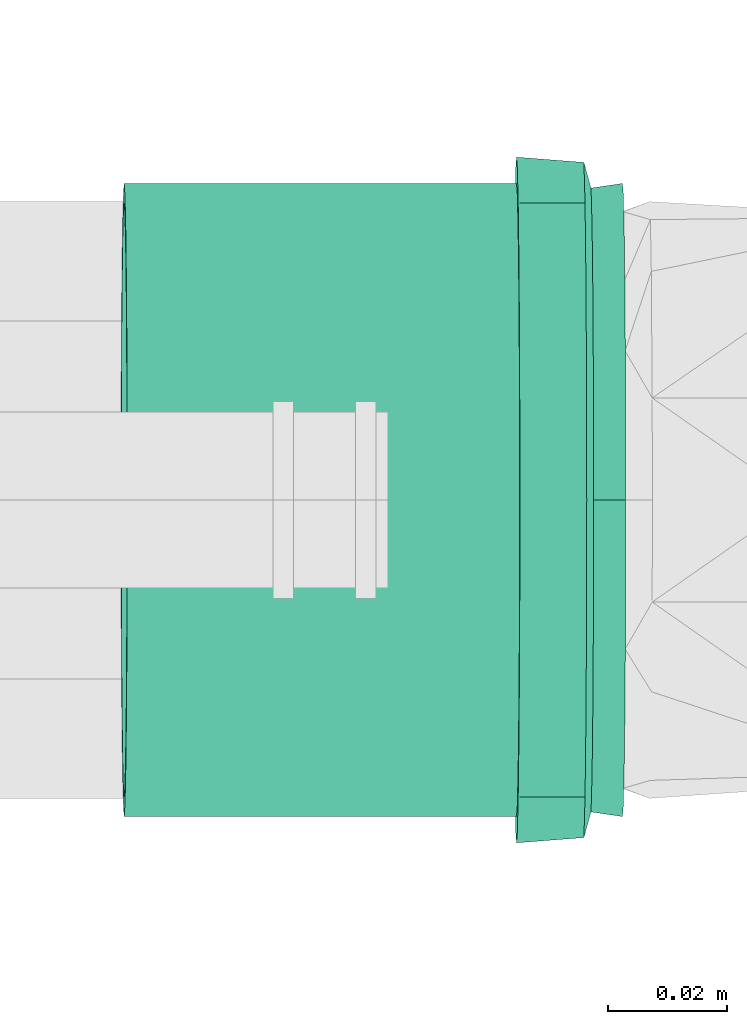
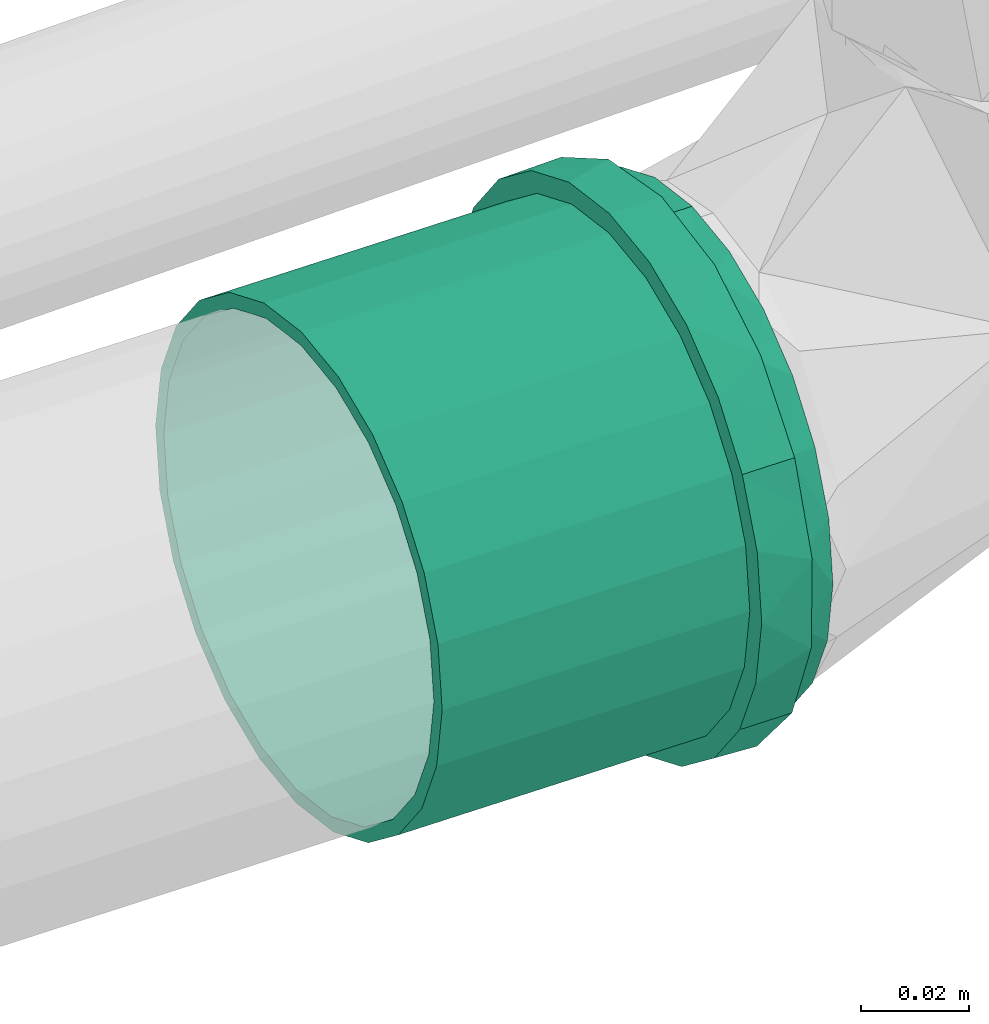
# One storey, part 84 of 589: 1 flow fitting.
"""IFC2X3 building model written with IfcOpenShell, lengths in millimetres."""

from ifc_helpers import new_model, entity, si_unit, converted_unit, derived_unit, direction, frame, origin, place, context, subcontext, project, spatial, faceted_brep, source, transform, mapped, material, type_object, type_shapes, element, save


model = new_model("IFC2X3")

# Units and contexts
model_context = context("Model", 3, precision=0.01, world=origin(), true_north=direction((6.123031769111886e-17, 1.0)))
body_context = subcontext(model_context, "Body", "Model", "MODEL_VIEW")
ifc_project = project(units=[si_unit("LENGTHUNIT", "METRE", prefix="MILLI"), si_unit("AREAUNIT", "SQUARE_METRE"), si_unit("VOLUMEUNIT", "CUBIC_METRE"), converted_unit("PLANEANGLEUNIT", "DEGREE", entity("IfcRatioMeasure", 0.017453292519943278), si_unit("PLANEANGLEUNIT", "RADIAN"), dimensions=[0, 0, 0, 0, 0, 0, 0]), si_unit("MASSUNIT", "GRAM", prefix="KILO"), derived_unit("MASSDENSITYUNIT", [(si_unit("MASSUNIT", "GRAM", prefix="KILO"), 1), (si_unit("LENGTHUNIT", "METRE"), -3)]), derived_unit("IONCONCENTRATIONUNIT", [(si_unit("MASSUNIT", "GRAM", prefix="KILO"), 1), (si_unit("LENGTHUNIT", "METRE"), -3)]), derived_unit("MOMENTOFINERTIAUNIT", [(si_unit("LENGTHUNIT", "METRE"), 4)]), si_unit("TIMEUNIT", "SECOND"), si_unit("FREQUENCYUNIT", "HERTZ"), si_unit("THERMODYNAMICTEMPERATUREUNIT", "DEGREE_CELSIUS"), derived_unit("THERMALTRANSMITTANCEUNIT", [(si_unit("MASSUNIT", "GRAM", prefix="KILO"), 1), (si_unit("THERMODYNAMICTEMPERATUREUNIT", "KELVIN"), -1), (si_unit("TIMEUNIT", "SECOND"), -3)]), derived_unit("THERMALCONDUCTANCEUNIT", [(si_unit("MASSUNIT", "GRAM", prefix="KILO"), 1), (si_unit("THERMODYNAMICTEMPERATUREUNIT", "KELVIN"), -1), (si_unit("TIMEUNIT", "SECOND"), -3), (si_unit("LENGTHUNIT", "METRE"), 1)]), derived_unit("VOLUMETRICFLOWRATEUNIT", [(si_unit("LENGTHUNIT", "METRE"), 3), (si_unit("TIMEUNIT", "SECOND"), -1)]), derived_unit("MASSFLOWRATEUNIT", [(si_unit("MASSUNIT", "GRAM", prefix="KILO"), 1), (si_unit("TIMEUNIT", "SECOND"), -1)]), derived_unit("ROTATIONALFREQUENCYUNIT", [(si_unit("TIMEUNIT", "SECOND"), -1)]), si_unit("ELECTRICCURRENTUNIT", "AMPERE"), si_unit("ELECTRICVOLTAGEUNIT", "VOLT"), si_unit("POWERUNIT", "WATT"), si_unit("FORCEUNIT", "NEWTON", prefix="KILO"), si_unit("ILLUMINANCEUNIT", "LUX"), si_unit("LUMINOUSFLUXUNIT", "LUMEN"), si_unit("LUMINOUSINTENSITYUNIT", "CANDELA"), derived_unit("USERDEFINED", [(si_unit("MASSUNIT", "GRAM", prefix="KILO"), -1), (si_unit("LENGTHUNIT", "METRE"), -2), (si_unit("TIMEUNIT", "SECOND"), 3), (si_unit("LUMINOUSFLUXUNIT", "LUMEN"), 1)]), derived_unit("USERDEFINED", [(si_unit("MASSUNIT", "GRAM", prefix="KILO"), 1), (si_unit("TIMEUNIT", "SECOND"), -3), (si_unit("LENGTHUNIT", "METRE"), 3), (si_unit("ELECTRICCURRENTUNIT", "AMPERE"), -2)]), derived_unit("SOUNDPOWERUNIT", [(si_unit("MASSUNIT", "GRAM", prefix="KILO"), 1), (si_unit("TIMEUNIT", "SECOND"), -3), (si_unit("LENGTHUNIT", "METRE"), 2)]), derived_unit("SOUNDPRESSUREUNIT", [(si_unit("MASSUNIT", "GRAM", prefix="KILO"), 1), (si_unit("LENGTHUNIT", "METRE"), -1), (si_unit("TIMEUNIT", "SECOND"), -2)]), derived_unit("LINEARVELOCITYUNIT", [(si_unit("LENGTHUNIT", "METRE"), 1), (si_unit("TIMEUNIT", "SECOND"), -1)]), si_unit("PRESSUREUNIT", "PASCAL"), derived_unit("USERDEFINED", [(si_unit("MASSUNIT", "GRAM", prefix="KILO"), 1), (si_unit("LENGTHUNIT", "METRE"), -2), (si_unit("TIMEUNIT", "SECOND"), -2)]), derived_unit("LINEARFORCEUNIT", [(si_unit("MASSUNIT", "GRAM", prefix="KILO"), 1), (si_unit("TIMEUNIT", "SECOND"), -2)]), derived_unit("PLANARFORCEUNIT", [(si_unit("MASSUNIT", "GRAM", prefix="KILO"), 1), (si_unit("LENGTHUNIT", "METRE"), -1), (si_unit("TIMEUNIT", "SECOND"), -2)]), derived_unit("SPECIFICHEATCAPACITYUNIT", [(si_unit("THERMODYNAMICTEMPERATUREUNIT", "KELVIN"), -1), (si_unit("LENGTHUNIT", "METRE"), 2), (si_unit("TIMEUNIT", "SECOND"), -2)]), derived_unit("HEATINGVALUEUNIT", [(si_unit("LENGTHUNIT", "METRE"), 2), (si_unit("TIMEUNIT", "SECOND"), -2)]), derived_unit("VAPORPERMEABILITYUNIT", [(si_unit("LENGTHUNIT", "METRE"), -1), (si_unit("TIMEUNIT", "SECOND"), 1)]), derived_unit("DYNAMICVISCOSITYUNIT", [(si_unit("MASSUNIT", "GRAM", prefix="KILO"), 1), (si_unit("TIMEUNIT", "SECOND"), -1), (si_unit("LENGTHUNIT", "METRE"), -1)]), derived_unit("THERMALEXPANSIONCOEFFICIENTUNIT", [(si_unit("THERMODYNAMICTEMPERATUREUNIT", "KELVIN"), -1)]), derived_unit("MODULUSOFELASTICITYUNIT", [(si_unit("MASSUNIT", "GRAM", prefix="KILO"), 1), (si_unit("LENGTHUNIT", "METRE"), -1), (si_unit("TIMEUNIT", "SECOND"), -2)]), derived_unit("ISOTHERMALMOISTURECAPACITYUNIT", [(si_unit("LENGTHUNIT", "METRE"), 3), (si_unit("MASSUNIT", "GRAM", prefix="KILO"), -1)]), derived_unit("MOISTUREDIFFUSIVITYUNIT", [(si_unit("TIMEUNIT", "SECOND"), -1), (si_unit("LENGTHUNIT", "METRE"), 2)])], contexts=[model_context])

# Site, building, storey
site_placement = place(None, origin())
site = spatial("IfcSite", under=ifc_project, at=site_placement, Name="Default", CompositionType="ELEMENT")
building_placement = place(site_placement, origin())
building = spatial("IfcBuilding", under=site, at=building_placement, CompositionType="ELEMENT")
storey_placement = place(building_placement, frame((0.0, 0.0, 100.0)))
storey = spatial("IfcBuildingStorey", under=building, at=storey_placement, Name="TÉRREO", CompositionType="ELEMENT", Elevation=100.0)

# Flow fitting
ifc_material = material(Name="PVC Série Normal")
pipe_fitting_type = type_object("IfcPipeFittingType", Name="PVC Esgoto_Luva Simples para Conexão_Rodrigo MEP:Standard", PredefinedType="NOTDEFINED", material=ifc_material)
shared_shape = source(origin(), body_context, "Body", "Brep", [
    faceted_brep([(17.770000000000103, 28.72500000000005, -49.753159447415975), (17.770000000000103, 40.62328457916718, -40.62328457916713), (17.770000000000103, 26.524999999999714, -45.94264767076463), (17.770000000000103, 13.730350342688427, -51.242365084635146), (17.770000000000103, 14.86915414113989, -55.49243872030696), (17.770000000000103, 37.5120147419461, -37.51201474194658), (17.770000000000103, 49.75315944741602, -28.724999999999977), (17.770000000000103, 45.94264767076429, -26.52500000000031), (17.770000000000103, 51.24236508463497, -13.730350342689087), (17.770000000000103, 55.49243872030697, -14.869154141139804), (17.770000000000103, 53.05, 0.0), (17.770000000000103, 57.45, 0.0), (17.770000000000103, 51.242365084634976, 13.730350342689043), (17.770000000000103, 55.49243872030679, 14.869154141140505), (17.770000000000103, 45.942647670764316, 26.52500000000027), (17.770000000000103, 49.753159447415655, 28.725000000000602), (17.770000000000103, 37.51201474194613, 37.51201474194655), (17.770000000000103, 40.62328457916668, 40.62328457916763), (17.770000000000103, 26.524999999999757, 45.9426476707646), (17.770000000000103, 28.72499999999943, 49.75315944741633), (17.770000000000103, 13.730350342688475, 51.24236508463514), (17.770000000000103, 14.8691541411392, 55.49243872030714), (17.770000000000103, 0.0, 53.05), (17.770000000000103, 0.0, 57.45), (17.770000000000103, -13.730350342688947, 51.24236508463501), (17.770000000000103, -14.869154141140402, 55.49243872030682), (17.770000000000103, -26.52500000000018, 45.94264767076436), (17.770000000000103, -28.725000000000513, 49.753159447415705), (17.770000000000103, -37.51201474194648, 37.5120147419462), (17.770000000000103, -40.62328457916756, 40.62328457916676), (17.770000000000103, -45.94264767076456, 26.524999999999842), (17.770000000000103, -49.7531594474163, 28.724999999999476), (17.770000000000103, -55.49243872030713, 14.869154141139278), (17.770000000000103, -51.24236508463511, 13.730350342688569), (17.770000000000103, -57.45, 0.0), (17.770000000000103, -53.05, 0.0), (17.770000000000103, -55.49243872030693, -14.86915414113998), (17.770000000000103, -51.24236508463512, -13.73035034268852), (17.770000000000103, -49.75315944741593, -28.72500000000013), (17.770000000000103, -45.942647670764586, -26.5249999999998), (17.770000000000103, -40.62328457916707, -40.62328457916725), (17.770000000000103, -37.512014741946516, -37.51201474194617), (17.770000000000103, -28.724999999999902, -49.75315944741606), (17.770000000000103, -26.525000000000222, -45.94264767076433), (17.770000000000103, -14.869154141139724, -55.492438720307), (17.770000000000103, -13.730350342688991, -51.242365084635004), (17.770000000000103, 0.0, -57.45), (17.770000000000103, 0.0, -53.05), (6.570000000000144, -19.34638876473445, 53.16657713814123), (6.57000000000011, -44.00761900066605, 36.93009572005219), (6.5700000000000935, -48.99626263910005, 28.290173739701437), (6.5700000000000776, -53.98490627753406, 19.65025175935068), (6.570000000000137, -28.721697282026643, 49.75506612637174), (6.570000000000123, -36.36465814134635, 43.34258092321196), (6.57000000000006, -55.71745313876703, 9.825125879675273), (6.570000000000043, -57.45, 0.0), (6.570000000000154, -9.971080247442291, 56.57808814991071), (6.570000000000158, 9.98234714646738, 56.576101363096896), (6.570000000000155, 0.005633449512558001, 56.577094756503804), (6.570000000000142, 36.37328876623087, 43.33533831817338), (6.570000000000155, 19.356976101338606, 53.16272339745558), (6.570000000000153, 28.73160505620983, 49.749345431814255), (6.5700000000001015, 53.988818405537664, 19.639500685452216), (6.570000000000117, 49.00189544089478, 28.280415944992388), (6.570000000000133, 44.01497247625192, 36.921331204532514), (6.570000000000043, 57.45, 0.0), (6.569999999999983, 44.01497247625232, -36.92133120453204), (6.569999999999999, 49.0018954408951, -28.280415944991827), (6.570000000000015, 53.98881840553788, -19.63950068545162), (6.569999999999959, 28.731605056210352, -49.74934543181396), (6.569999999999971, 36.37328876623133, -43.335338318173), (6.569999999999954, 19.35697610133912, -53.16272339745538), (6.569999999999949, 9.982347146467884, -56.57610136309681), (6.569999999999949, -9.97108024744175, -56.578088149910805), (6.569999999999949, 0.005633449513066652, -56.577094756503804), (6.569999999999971, -36.364658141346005, -43.34258092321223), (6.56999999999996, -28.72169728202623, -49.755066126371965), (6.569999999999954, -19.346388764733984, -53.16657713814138), (6.57000000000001, -53.984906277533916, -19.650251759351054), (6.569999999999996, -48.99626263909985, -28.290173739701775), (6.569999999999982, -44.007619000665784, -36.93009572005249), (6.570000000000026, -55.717453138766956, -9.825125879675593), (83.52000000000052, 26.525000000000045, -45.942647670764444), (83.52000000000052, 37.512014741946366, -37.51201474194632), (83.52000000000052, 25.0, -43.301270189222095), (83.52000000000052, 12.940952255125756, -48.2962913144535), (83.52000000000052, 13.73035034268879, -51.242365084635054), (83.52000000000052, 35.35533905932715, -35.355339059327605), (83.52000000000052, 45.94264767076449, -26.524999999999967), (83.52000000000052, 43.30127018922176, -25.0), (83.52000000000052, 48.29629131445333, -12.940952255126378), (83.52000000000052, 51.24236508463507, -13.730350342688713), (83.52000000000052, 50.0, 0.0), (83.52000000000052, 53.05, 0.0), (83.52000000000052, 48.296291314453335, 12.940952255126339), (83.52000000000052, 51.2423650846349, 13.73035034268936), (83.52000000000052, 43.30127018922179, 25.0), (83.52000000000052, 45.942647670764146, 26.525000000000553), (83.52000000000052, 35.35533905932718, 35.35533905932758), (83.52000000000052, 37.512014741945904, 37.512014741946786), (83.52000000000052, 25.0, 43.301270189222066), (83.52000000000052, 26.52499999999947, 45.94264767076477), (83.52000000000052, 12.9409522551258, 48.29629131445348), (83.52000000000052, 13.730350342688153, 51.242365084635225), (83.52000000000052, 0.0, 50.0), (83.52000000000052, 0.0, 53.05), (83.52000000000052, -12.94095225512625, 48.296291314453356), (83.52000000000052, -13.730350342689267, 51.24236508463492), (83.52000000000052, -25.0, 43.30127018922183), (83.52000000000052, -26.525000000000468, 45.942647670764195), (83.52000000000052, -35.355339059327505, 35.35533905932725), (83.52000000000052, -37.512014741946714, 37.51201474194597), (83.52000000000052, -43.30127018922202, 25.0), (83.52000000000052, -45.942647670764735, 26.524999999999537), (83.52000000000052, -51.24236508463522, 13.730350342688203), (83.52000000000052, -48.29629131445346, 12.94095225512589), (83.52000000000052, -53.05, 0.0), (83.52000000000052, -50.0, 0.0), (83.52000000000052, -51.242365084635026, -13.730350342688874), (83.52000000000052, -48.29629131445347, -12.940952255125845), (83.52000000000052, -45.9426476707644, -26.525000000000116), (83.52000000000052, -43.301270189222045, -25.0), (83.52000000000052, -37.51201474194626, -37.51201474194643), (83.52000000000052, -35.35533905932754, -35.355339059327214), (83.52000000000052, -26.524999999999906, -45.94264767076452), (83.52000000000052, -25.0, -43.30127018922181), (83.52000000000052, -13.730350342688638, -51.2423650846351), (83.52000000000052, -12.94095225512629, -48.29629131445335), (83.52000000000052, 0.0, -53.05), (83.52000000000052, 0.0, -50.0), (0.0, 25.0, -43.301270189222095), (0.0, 37.512014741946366, -37.51201474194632), (0.0, 26.525000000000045, -45.942647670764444), (0.0, 12.940952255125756, -48.2962913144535), (0.0, 35.35533905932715, -35.355339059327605), (0.0, 45.94264767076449, -26.524999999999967), (0.0, 43.30127018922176, -25.0), (0.0, 48.29629131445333, -12.940952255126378), (0.0, 51.24236508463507, -13.730350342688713), (0.0, 50.0, 0.0), (0.0, 53.05, 0.0), (0.0, 48.296291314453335, 12.940952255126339), (0.0, 51.2423650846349, 13.73035034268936), (0.0, 43.30127018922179, 25.0), (0.0, 45.942647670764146, 26.525000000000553), (0.0, 35.35533905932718, 35.35533905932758), (0.0, 37.512014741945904, 37.512014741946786), (0.0, 25.0, 43.301270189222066), (0.0, 26.52499999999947, 45.94264767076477), (0.0, 12.9409522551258, 48.29629131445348), (0.0, 13.730350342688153, 51.242365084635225), (0.0, 0.0, 50.0), (0.0, 0.0, 53.05), (0.0, -12.94095225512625, 48.296291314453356), (0.0, -13.730350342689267, 51.24236508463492), (0.0, -25.0, 43.30127018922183), (0.0, -26.525000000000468, 45.942647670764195), (0.0, -35.355339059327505, 35.35533905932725), (0.0, -37.512014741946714, 37.51201474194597), (0.0, -43.30127018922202, 25.0), (0.0, -45.942647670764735, 26.524999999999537), (0.0, -51.24236508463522, 13.730350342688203), (0.0, -48.29629131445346, 12.94095225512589), (0.0, -53.05, 0.0), (0.0, -50.0, 0.0), (0.0, -51.242365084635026, -13.730350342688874), (0.0, -48.29629131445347, -12.940952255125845), (0.0, -45.9426476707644, -26.525000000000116), (0.0, -43.301270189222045, -25.0), (0.0, -37.51201474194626, -37.51201474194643), (0.0, -35.35533905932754, -35.355339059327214), (0.0, -26.524999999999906, -45.94264767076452), (0.0, -25.0, -43.30127018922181), (0.0, -13.730350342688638, -51.2423650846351), (0.0, -12.94095225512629, -48.29629131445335), (0.0, 0.0, -53.05), (0.0, 0.0, -50.0), (0.0, 13.73035034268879, -51.242365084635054), (5.370000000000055, -53.05, 0.0), (5.370000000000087, -49.85079898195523, 18.143878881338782), (5.370000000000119, -40.63905406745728, 34.09941032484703), (5.370000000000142, -26.525801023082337, 45.942185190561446), (5.3700000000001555, -9.213250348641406, 52.24383712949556), (5.370000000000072, 51.44992493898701, 9.073243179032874), (5.370000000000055, 53.05, 0.0), (5.370000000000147, 26.523397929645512, 45.943572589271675), (5.370000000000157, 9.210517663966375, 52.244318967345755), (5.3700000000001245, 40.63727040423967, 34.10153594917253), (5.370000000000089, 49.84984987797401, 18.146486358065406), (5.370000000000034, 51.4499249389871, -9.073243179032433), (5.370000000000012, 49.84984987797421, -18.146486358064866), (5.369999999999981, 40.63727040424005, -34.101535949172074), (5.36999999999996, 26.523397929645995, -45.9435725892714), (5.369999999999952, 9.21051766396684, -52.24431896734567), (5.369999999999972, -26.52580102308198, -45.94218519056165), (5.369999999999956, -9.213250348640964, -52.24383712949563), (5.369999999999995, -40.63905406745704, -34.099410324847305), (5.370000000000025, -49.8507989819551, -18.143878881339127), (50.0, -50.0, 0.0), (50.0, 50.0, 0.0)], [[[0, 1, 2]], [[0, 2, 3]], [[3, 4, 0]], [[2, 1, 5]], [[6, 5, 1]], [[5, 6, 7]], [[7, 6, 8]], [[9, 8, 6]], [[9, 10, 8]], [[10, 9, 11]], [[12, 10, 11]], [[11, 13, 12]], [[12, 13, 14]], [[15, 14, 13]], [[14, 15, 16]], [[16, 15, 17]], [[18, 16, 17]], [[17, 19, 18]], [[18, 19, 20]], [[21, 20, 19]], [[20, 21, 22]], [[22, 21, 23]], [[22, 23, 24]], [[24, 23, 25]], [[24, 25, 26]], [[27, 26, 25]], [[27, 28, 26]], [[28, 27, 29]], [[29, 30, 28]], [[31, 30, 29]], [[30, 31, 32]], [[32, 33, 30]], [[34, 33, 32]], [[34, 35, 33]], [[36, 35, 34]], [[36, 37, 35]], [[37, 36, 38]], [[38, 39, 37]], [[39, 38, 40]], [[39, 40, 41]], [[40, 42, 41]], [[41, 42, 43]], [[43, 42, 44]], [[44, 45, 43]], [[46, 45, 44]], [[4, 47, 46]], [[46, 47, 45]], [[4, 3, 47]], [[48, 27, 25]], [[31, 29, 49]], [[31, 49, 50, 51]], [[52, 53, 27]], [[32, 51, 54]], [[54, 55, 34]], [[54, 34, 32]], [[25, 56, 48]], [[49, 29, 53]], [[23, 57, 58, 56]], [[59, 19, 17]], [[27, 53, 29]], [[48, 52, 27]], [[31, 51, 32]], [[57, 23, 21]], [[60, 19, 61]], [[15, 62, 63, 64]], [[19, 60, 21]], [[15, 13, 62]], [[17, 64, 59]], [[57, 21, 60]], [[23, 56, 25]], [[15, 64, 17]], [[13, 65, 62]], [[13, 11, 65]], [[59, 61, 19]], [[65, 11, 9]], [[6, 1, 66]], [[6, 66, 67, 68]], [[69, 70, 0]], [[68, 65, 9]], [[71, 69, 0]], [[71, 0, 4]], [[4, 72, 71]], [[66, 1, 70]], [[46, 73, 74, 72]], [[75, 76, 42]], [[0, 70, 1]], [[75, 42, 40]], [[6, 68, 9]], [[73, 46, 44]], [[77, 42, 76]], [[38, 78, 79, 80]], [[42, 77, 44]], [[38, 36, 78]], [[40, 80, 75]], [[73, 44, 77]], [[46, 72, 4]], [[38, 80, 40]], [[81, 78, 36]], [[55, 81, 34]], [[34, 81, 36]], [[82, 83, 84]], [[82, 84, 85]], [[85, 86, 82]], [[84, 83, 87]], [[88, 87, 83]], [[87, 88, 89]], [[89, 88, 90]], [[91, 90, 88]], [[91, 92, 90]], [[92, 91, 93]], [[94, 92, 93]], [[93, 95, 94]], [[94, 95, 96]], [[97, 96, 95]], [[96, 97, 98]], [[98, 97, 99]], [[100, 98, 99]], [[99, 101, 100]], [[100, 101, 102]], [[103, 102, 101]], [[102, 103, 104]], [[104, 103, 105]], [[104, 105, 106]], [[106, 105, 107]], [[106, 107, 108]], [[109, 108, 107]], [[110, 108, 109]], [[110, 109, 111]], [[111, 112, 110]], [[113, 112, 111]], [[112, 113, 114]], [[114, 115, 112]], [[116, 115, 114]], [[116, 117, 115]], [[118, 117, 116]], [[118, 119, 117]], [[119, 118, 120]], [[120, 121, 119]], [[121, 120, 122]], [[121, 122, 123]], [[122, 124, 123]], [[125, 123, 124]], [[125, 124, 126]], [[126, 127, 125]], [[128, 127, 126]], [[86, 129, 128]], [[128, 129, 127]], [[86, 85, 129]], [[130, 131, 132]], [[133, 130, 132]], [[134, 131, 130]], [[131, 134, 135]], [[136, 135, 134]], [[137, 135, 136]], [[135, 137, 138]], [[137, 139, 138]], [[140, 138, 139]], [[140, 139, 141]], [[141, 142, 140]], [[143, 142, 141]], [[142, 143, 144]], [[145, 144, 143]], [[146, 144, 145]], [[146, 145, 147]], [[147, 148, 146]], [[149, 148, 147]], [[148, 149, 150]], [[151, 150, 149]], [[152, 150, 151]], [[153, 152, 151]], [[154, 152, 153]], [[155, 154, 153]], [[154, 155, 156]], [[156, 155, 157]], [[158, 156, 157]], [[157, 159, 158]], [[158, 159, 160]], [[161, 160, 159]], [[159, 162, 161]], [[161, 162, 163]], [[162, 164, 163]], [[163, 164, 165]], [[164, 166, 165]], [[167, 165, 166]], [[166, 168, 167]], [[169, 167, 168]], [[170, 169, 168]], [[170, 171, 169]], [[171, 170, 172]], [[173, 171, 172]], [[172, 174, 173]], [[173, 174, 175]], [[174, 176, 175]], [[176, 133, 177]], [[175, 176, 177]], [[132, 177, 133]], [[161, 178, 179]], [[158, 180, 181]], [[179, 180, 160]], [[181, 182, 154]], [[179, 160, 161]], [[161, 163, 178]], [[35, 116, 114, 33]], [[183, 184, 140]], [[181, 156, 158]], [[158, 160, 180]], [[181, 154, 156]], [[182, 152, 154]], [[183, 140, 142]], [[185, 150, 186]], [[187, 146, 185]], [[142, 188, 183]], [[187, 188, 144]], [[185, 148, 150]], [[150, 152, 186]], [[187, 144, 146]], [[146, 148, 185]], [[188, 142, 144]], [[186, 152, 182]], [[189, 190, 138]], [[131, 191, 192]], [[190, 191, 135]], [[192, 193, 177]], [[190, 135, 138]], [[184, 189, 140]], [[192, 132, 131]], [[131, 135, 191]], [[192, 177, 132]], [[193, 175, 177]], [[140, 189, 138]], [[194, 173, 195]], [[196, 169, 194]], [[165, 197, 178]], [[196, 197, 167]], [[165, 178, 163]], [[35, 37, 118, 116]], [[194, 171, 173]], [[173, 175, 195]], [[196, 167, 169]], [[169, 171, 194]], [[197, 165, 167]], [[195, 175, 193]], [[115, 117, 198, 164, 162]], [[155, 108, 110, 157]], [[110, 112, 159, 157]], [[112, 115, 162, 159]], [[106, 108, 155, 153]], [[153, 151, 104, 106]], [[102, 104, 151, 149]], [[102, 149, 147, 100]], [[141, 94, 96, 143]], [[96, 98, 145, 143]], [[98, 100, 147, 145]], [[92, 94, 141, 139, 199]], [[199, 139, 137, 90, 92]], [[87, 89, 136, 134]], [[134, 130, 84, 87]], [[89, 90, 137, 136]], [[85, 84, 130, 133]], [[133, 176, 129, 85]], [[127, 129, 176, 174]], [[127, 174, 172, 125]], [[166, 119, 121, 168]], [[121, 123, 170, 168]], [[123, 125, 172, 170]], [[117, 119, 166, 164, 198]], [[81, 178, 197]], [[190, 68, 67]], [[194, 75, 196]], [[193, 72, 74]], [[195, 77, 194]], [[79, 197, 196]], [[81, 55, 178]], [[192, 69, 71]], [[79, 78, 197]], [[194, 77, 76]], [[191, 66, 70]], [[80, 196, 75]], [[68, 190, 189]], [[74, 195, 193]], [[192, 71, 193]], [[190, 67, 191]], [[70, 192, 191]], [[65, 189, 184]], [[195, 73, 77]], [[193, 71, 72]], [[197, 78, 81]], [[191, 67, 66]], [[189, 65, 68]], [[196, 80, 79]], [[70, 69, 192]], [[194, 76, 75]], [[73, 195, 74]], [[65, 183, 62]], [[48, 56, 182]], [[58, 182, 56]], [[54, 51, 179]], [[59, 185, 61]], [[60, 186, 57]], [[53, 52, 181]], [[63, 187, 64]], [[58, 57, 186]], [[187, 63, 188]], [[186, 60, 185]], [[50, 49, 180]], [[185, 59, 187]], [[59, 64, 187]], [[182, 58, 186]], [[50, 179, 51]], [[54, 178, 55]], [[53, 180, 49]], [[63, 62, 188]], [[181, 48, 182]], [[183, 65, 184]], [[179, 50, 180]], [[178, 54, 179]], [[183, 188, 62]], [[180, 53, 181]], [[60, 61, 185]], [[48, 181, 52]], [[30, 33, 114, 113]], [[26, 28, 111, 109]], [[113, 111, 28, 30]], [[107, 24, 26, 109]], [[107, 105, 22, 24]], [[18, 20, 103, 101]], [[99, 16, 18, 101]], [[12, 14, 97, 95]], [[99, 97, 14, 16]], [[10, 12, 95, 93]], [[103, 20, 22, 105]], [[91, 8, 10, 93]], [[88, 7, 8, 91]], [[82, 86, 3, 2]], [[83, 5, 7, 88]], [[2, 5, 83, 82]], [[86, 128, 47, 3]], [[43, 45, 126, 124]], [[122, 41, 43, 124]], [[37, 39, 120, 118]], [[122, 120, 39, 41]], [[126, 45, 47, 128]]]),
])
type_shapes(pipe_fitting_type, [shared_shape])
flow_fitting_placement = place(storey_placement, frame((-7304.292088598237, -528.9241377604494, -243.4445135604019), z_axis=(0.0, 1.0, 0.0), x_axis=(-0.9999500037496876, 0.0, 0.009999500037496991)))
element("IfcFlowFitting", 1, at=flow_fitting_placement, inside=storey, type_object=pipe_fitting_type, material=ifc_material, Name="PVC Esgoto_Luva Simples para Conexão_Rodrigo MEP:Standard", ObjectType="PVC Esgoto_Luva Simples para Conexão_Rodrigo MEP:Standard", context=body_context, shape_type="MappedRepresentation", body=[
    mapped(shared_shape, transform((0.0, 0.0, 0.0), scale=1.0)),
])

save(model, "model.ifc")
